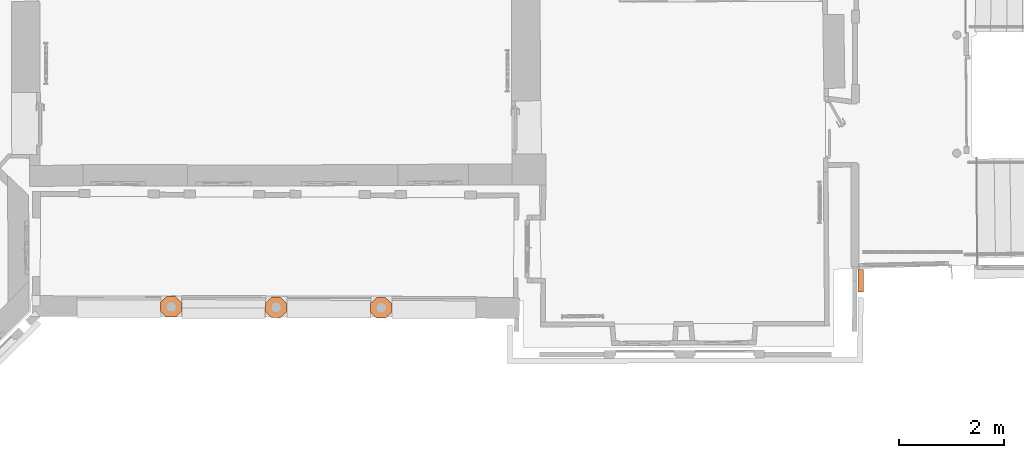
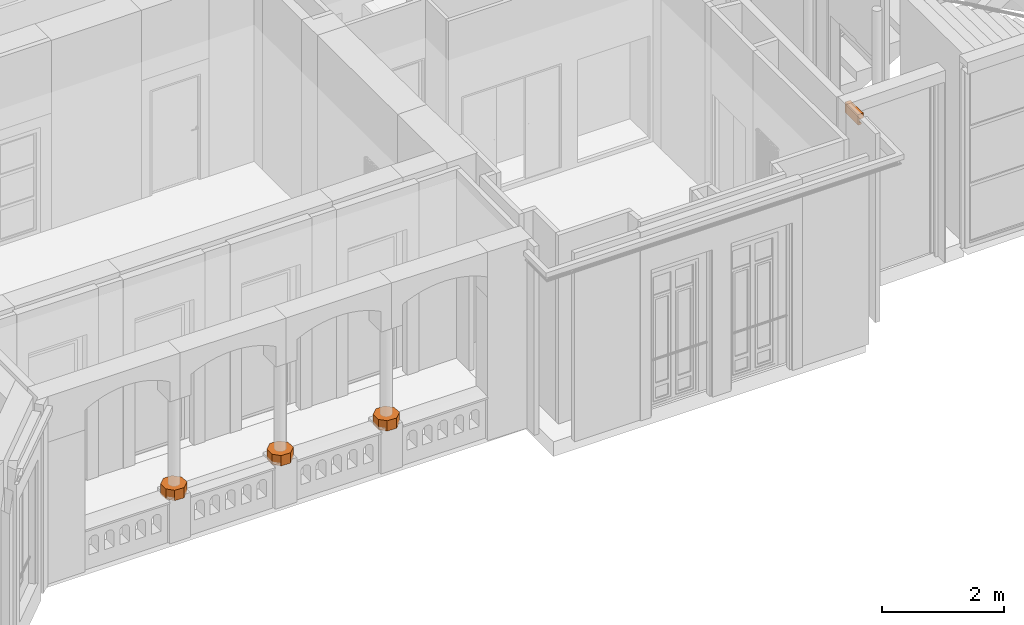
# One storey, part 61 of 66: 4 proxies.
"""IFC2X3 building model written with IfcOpenShell, lengths in centimetres."""

import ifcopenshell
import ifcopenshell.guid

model = None  # the IFC model being written
_history = None  # IfcOwnerHistory: only IFC2X3 demands one
_inside = {}  # id of a spatial element -> (the spatial element, [elements in it])
_under = {}  # id of a project, library or spatial element -> (it, [spatial elements below it])
_declared = {}  # id of a project -> (the project, [libraries it declares])
_typed = {}  # id of a type object -> (the type object, [elements of that type])
_made_of = {}  # id of a material, layer set ... -> (it, [elements and type objects made of it])


def new_model(schema):
    """Start an empty IFC model of exactly this schema.

    Asked for "IFC4X3", IfcOpenShell would pick the latest addendum, in which some entities
    have other attributes; the version numbers below select the first issue.
    IFC2X3 requires an IfcOwnerHistory on every rooted entity: one is made here for all.
    """
    global model, _history
    if schema == "IFC4X3":
        model = ifcopenshell.file(schema_version=(4, 3, 0, 0))
    else:
        model = ifcopenshell.file(schema=schema)
    _inside.clear()
    _under.clear()
    _declared.clear()
    _typed.clear()
    _made_of.clear()
    _history = None
    if model.schema == "IFC2X3":
        org = make("IfcOrganization", Name="unknown")
        user = make(
            "IfcPersonAndOrganization",
            ThePerson=make("IfcPerson", FamilyName="unknown"),
            TheOrganization=org,
        )
        app = make(
            "IfcApplication",
            ApplicationDeveloper=org,
            Version="unknown",
            ApplicationFullName="unknown",
            ApplicationIdentifier="unknown",
        )
        _history = make(
            "IfcOwnerHistory",
            OwningUser=user,
            OwningApplication=app,
            ChangeAction="ADDED",
            CreationDate=0,
        )
    return model


def make(cls, **values):
    """One entity of the class cls with the attributes given. An attribute that is None is left unset."""
    return model.create_entity(
        cls, **{name: value for name, value in values.items() if value is not None}
    )


def entity(cls, *values):
    """Any entity or typed value of the class cls, its attributes in the order of the schema. None: left unset."""
    e = model.create_entity(cls)
    for i, value in enumerate(values):
        if value is not None:
            e[i] = value
    return e


def rooted(cls, **values):
    """An entity with a GlobalId (a new one), such as an element, a storey or a relation."""
    return make(cls, GlobalId=ifcopenshell.guid.new(), OwnerHistory=_history, **values)


def si_unit(unit_type, name, prefix=None):
    """IfcSIUnit, for example si_unit("LENGTHUNIT", "METRE", prefix="MILLI")."""
    return make("IfcSIUnit", UnitType=unit_type, Prefix=prefix, Name=name)


def converted_unit(unit_type, name, factor, base, dimensions=None, offset=None):
    """IfcConversionBasedUnit, such as the inch: factor (a typed value) times the base unit."""
    return make(
        "IfcConversionBasedUnit"
        if offset is None
        else "IfcConversionBasedUnitWithOffset",
        ConversionOffset=offset,
        Dimensions=None
        if dimensions is None
        else entity("IfcDimensionalExponents", *dimensions),
        UnitType=unit_type,
        Name=name,
        ConversionFactor=make(
            "IfcMeasureWithUnit", ValueComponent=factor, UnitComponent=base
        ),
    )


def assignment(units):
    """IfcUnitAssignment: the units of a project."""
    return None if units is None else make("IfcUnitAssignment", Units=units)


def point(xyz):
    """IfcCartesianPoint."""
    return None if xyz is None else make("IfcCartesianPoint", Coordinates=xyz)


def direction(xyz):
    """IfcDirection."""
    return None if xyz is None else make("IfcDirection", DirectionRatios=xyz)


def frame(location, z_axis=None, x_axis=None):
    """IfcAxis2Placement3D, a coordinate frame: its origin and axes. An axis left out is left unset."""
    return make(
        "IfcAxis2Placement3D",
        Location=point(location),
        Axis=direction(z_axis),
        RefDirection=direction(x_axis),
    )


def frame_2d(location, x_axis=None):
    """IfcAxis2Placement2D, a coordinate frame in the plane: its origin and x axis."""
    return make(
        "IfcAxis2Placement2D", Location=point(location), RefDirection=direction(x_axis)
    )


def origin():
    """The frame at (0, 0, 0) with its axes left unset."""
    return frame((0.0, 0.0, 0.0))


def origin_with_axes():
    """The frame at (0, 0, 0) with the z axis (0, 0, 1) and the x axis (1, 0, 0) written out."""
    return frame((0.0, 0.0, 0.0), z_axis=(0.0, 0.0, 1.0), x_axis=(1.0, 0.0, 0.0))


def place(relative_to, where):
    """IfcLocalPlacement: puts the frame where relative to a parent placement (None: the world)."""
    return make(
        "IfcLocalPlacement", PlacementRelTo=relative_to, RelativePlacement=where
    )


def context(
    kind, dimensions, precision=None, world=None, true_north=None, identifier=None
):
    """IfcGeometricRepresentationContext, for example the 3D "Model" context."""
    return make(
        "IfcGeometricRepresentationContext",
        ContextIdentifier=identifier,
        ContextType=kind,
        CoordinateSpaceDimension=dimensions,
        Precision=precision,
        WorldCoordinateSystem=world,
        TrueNorth=true_north,
    )


def subcontext(parent, identifier, kind, view, scale=None):
    """IfcGeometricRepresentationSubContext, for example "Body" below "Model"."""
    return make(
        "IfcGeometricRepresentationSubContext",
        ContextIdentifier=identifier,
        ContextType=kind,
        ParentContext=parent,
        TargetScale=scale,
        TargetView=view,
    )


def project(units=None, contexts=None):
    """IfcProject with its units and contexts."""
    return rooted(
        "IfcProject",
        Name="project",
        RepresentationContexts=contexts,
        UnitsInContext=assignment(units),
    )


def spatial(cls, under=None, at=None, **own):
    """A site, building, storey or space (cls), placed at a placement, below another one or the project."""
    s = rooted(cls, ObjectPlacement=at, **own)
    if under is not None:
        _under.setdefault(under.id(), (under, []))[1].append(s)
    return s


def polyline(points):
    """IfcPolyline through the points."""
    return make("IfcPolyline", Points=[point(p) for p in points])


def circle_curve(where, radius):
    """IfcCircle in the frame where."""
    return make("IfcCircle", Position=where, Radius=radius)


def trimmed(basis, trim1, trim2, sense, master):
    """IfcTrimmedCurve: the piece of a basis curve between two trims."""
    return make(
        "IfcTrimmedCurve",
        BasisCurve=basis,
        Trim1=trim1,
        Trim2=trim2,
        SenseAgreement=sense,
        MasterRepresentation=master,
    )


def segment(curve, same_sense, transition):
    """IfcCompositeCurveSegment."""
    return make(
        "IfcCompositeCurveSegment",
        Transition=transition,
        SameSense=same_sense,
        ParentCurve=curve,
    )


def composite_curve(segments, self_intersect=None):
    """IfcCompositeCurve: segments joined end to end."""
    return make("IfcCompositeCurve", Segments=segments, SelfIntersect=self_intersect)


def outline(outer, holes=None, kind="AREA"):
    """IfcArbitraryClosedProfileDef: a profile drawn as a closed curve; with holes, ...WithVoids."""
    if holes is None:
        return make("IfcArbitraryClosedProfileDef", ProfileType=kind, OuterCurve=outer)
    return make(
        "IfcArbitraryProfileDefWithVoids",
        ProfileType=kind,
        OuterCurve=outer,
        InnerCurves=holes,
    )


def extrude(swept, where, along, depth):
    """IfcExtrudedAreaSolid: the profile swept, set in the frame where, extruded along a direction by depth."""
    return make(
        "IfcExtrudedAreaSolid",
        SweptArea=swept,
        Position=where,
        ExtrudedDirection=direction(along),
        Depth=depth,
    )


def faces_of(points, faces, orient=None, outer=None):
    """IfcFace entities. A face is a list of loops; a loop is a list of indices into points, from 0.

    orient and outer hold one flag for each loop. By default every Orientation is true, the
    first loop of a face is its IfcFaceOuterBound and the others are IfcFaceBound.
    """
    made = []
    for i, loops in enumerate(faces):
        bounds = []
        for j, loop in enumerate(loops):
            is_outer = j == 0 if outer is None else outer[i][j]
            bounds.append(
                make(
                    "IfcFaceOuterBound" if is_outer else "IfcFaceBound",
                    Bound=make("IfcPolyLoop", Polygon=[points[k] for k in loop]),
                    Orientation=True if orient is None else orient[i][j],
                )
            )
        made.append(make("IfcFace", Bounds=bounds))
    return made


def faceted_brep(points, faces, orient=None, outer=None, voids=None):
    """IfcFacetedBrep: a solid bounded by flat faces; with voids (closed shells), ...WithVoids."""
    shared = [point(p) for p in points]
    hull = make("IfcClosedShell", CfsFaces=faces_of(shared, faces, orient, outer))
    if voids is None:
        return make("IfcFacetedBrep", Outer=hull)
    return make(
        "IfcFacetedBrepWithVoids",
        Outer=hull,
        Voids=[
            make(cls, CfsFaces=faces_of(shared, fs, o, b)) for cls, fs, o, b in voids
        ],
    )


def shape(context_of_items, identifier, shape_type, items):
    """IfcShapeRepresentation: the items that make up one representation, for example the "Body"."""
    return make(
        "IfcShapeRepresentation",
        ContextOfItems=context_of_items,
        RepresentationIdentifier=identifier,
        RepresentationType=shape_type,
        Items=items,
    )


def source(mapping_origin, context_of_items, identifier, shape_type, items):
    """IfcRepresentationMap: a shape defined once, which mapped items show again and again."""
    return make(
        "IfcRepresentationMap",
        MappingOrigin=mapping_origin,
        MappedRepresentation=shape(context_of_items, identifier, shape_type, items),
    )


def transform(
    local_origin,
    x_axis=None,
    y_axis=None,
    z_axis=None,
    scale=None,
    scale2=None,
    scale3=None,
    uniform=True,
):
    """IfcCartesianTransformationOperator3D, or its non-uniform kind. x_axis, y_axis, z_axis: its Axis1, 2, 3."""
    if uniform:
        return make(
            "IfcCartesianTransformationOperator3D",
            Axis1=direction(x_axis),
            Axis2=direction(y_axis),
            LocalOrigin=point(local_origin),
            Scale=scale,
            Axis3=direction(z_axis),
        )
    return make(
        "IfcCartesianTransformationOperator3DnonUniform",
        Axis1=direction(x_axis),
        Axis2=direction(y_axis),
        LocalOrigin=point(local_origin),
        Scale=scale,
        Axis3=direction(z_axis),
        Scale2=scale2,
        Scale3=scale3,
    )


def mapped(mapping_source, mapping_target):
    """IfcMappedItem: shows the shape of a source again, moved by a transform."""
    return make(
        "IfcMappedItem", MappingSource=mapping_source, MappingTarget=mapping_target
    )


def material(Name=None, Category=None):
    """IfcMaterial."""
    return make("IfcMaterial", Name=Name, Category=Category)


def made_of(thing, what):
    """Note that an element or type object is made of a material, layer set ...; save() writes the relation."""
    if what is not None:
        _made_of.setdefault(what.id(), (what, []))[1].append(thing)
    return thing


def type_object(cls, material=None, **own):
    """A type object (cls), such as IfcWallType, which elements share."""
    return made_of(rooted(cls, **own), material)


def element(
    cls,
    number,
    at=None,
    inside=None,
    cuts=None,
    type_object=None,
    material=None,
    context=None,
    identifier="Body",
    shape_type=None,
    held_by="IfcProductDefinitionShape",
    body=None,
    shapes=None,
    **own,
):
    """One element of the class cls, such as IfcWall. Its Tag is "e" and its number.

    at: its placement. inside: the storey or other place that contains it. cuts: it is an
    opening in that element (IfcRelVoidsElement). A single representation is given by context,
    identifier, shape_type and body (its items); several are given by shapes. held_by: the class
    of the entity that holds the representations. save() writes the other relations.
    """
    e = rooted(cls, Tag="e%d" % number, ObjectPlacement=at, **own)
    if body is not None:
        shapes = [shape(context, identifier, shape_type, body)]
    if shapes is not None:
        e.Representation = make(held_by, Representations=shapes)
    if inside is not None:
        _inside.setdefault(inside.id(), (inside, []))[1].append(e)
    if cuts is not None:
        rooted(
            "IfcRelVoidsElement", RelatingBuildingElement=cuts, RelatedOpeningElement=e
        )
    if type_object is not None:
        _typed.setdefault(type_object.id(), (type_object, []))[1].append(e)
    return made_of(e, material)


def aggregate(whole, parts):
    """IfcRelAggregates: a whole, such as a stair, and the parts it consists of."""
    return rooted("IfcRelAggregates", RelatingObject=whole, RelatedObjects=parts)


def save(model, path):
    """Write the relations noted so far, then the file.

    IfcRelAggregates (storeys below a building ...), IfcRelContainedInSpatialStructure (elements
    in a storey), IfcRelDefinesByType, IfcRelAssociatesMaterial and IfcRelDeclares: one each for
    every whole, place, type object, material and project.
    """
    for whole, parts in _under.values():
        aggregate(whole, parts)
    for where, things in _inside.values():
        rooted(
            "IfcRelContainedInSpatialStructure",
            RelatedElements=things,
            RelatingStructure=where,
        )
    for kind, things in _typed.values():
        rooted("IfcRelDefinesByType", RelatedObjects=things, RelatingType=kind)
    for what, things in _made_of.values():
        rooted("IfcRelAssociatesMaterial", RelatedObjects=things, RelatingMaterial=what)
    for by, libraries in _declared.values():
        rooted("IfcRelDeclares", RelatingContext=by, RelatedDefinitions=libraries)
    model.write(path)


model = new_model("IFC2X3")

# Units and contexts
model_context = context("Model", 3, precision=0.0001, world=origin(), true_north=direction((0.225632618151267, 0.974212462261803, 0.0)))
body_context = subcontext(model_context, "Body", "Model", "MODEL_VIEW")
ifc_project = project(units=[si_unit("LENGTHUNIT", "METRE", prefix="CENTI"), si_unit("AREAUNIT", "SQUARE_METRE", prefix="CENTI"), si_unit("VOLUMEUNIT", "CUBIC_METRE", prefix="CENTI"), converted_unit("PLANEANGLEUNIT", "DEGREE", entity("IfcRatioMeasure", 0.0174532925), si_unit("PLANEANGLEUNIT", "RADIAN"), dimensions=[0, 0, 0, 0, 0, 0, 0])], contexts=[model_context])

# Site, building, storey
site_placement = place(None, origin_with_axes())
site = spatial("IfcSite", under=ifc_project, at=site_placement, Name="Default Site", CompositionType="ELEMENT")
building_placement = place(site_placement, origin_with_axes())
building = spatial("IfcBuilding", under=site, at=building_placement, Name="Default Building", CompositionType="ELEMENT")
storey_placement = place(building_placement, frame((0.0, 0.0, 477.795358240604), z_axis=(0.0, 0.0, 1.0), x_axis=(1.0, 0.0, 0.0)))
storey = spatial("IfcBuildingStorey", under=building, at=storey_placement, Name="Niveau 1", CompositionType="ELEMENT", Elevation=477.795358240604)

# Proxies
ifc_material_1 = material(Name="Aluminium mat")
building_element_proxy_type = type_object("IfcBuildingElementProxyType", Name="Corniche niv1", PredefinedType="NOTDEFINED", material=ifc_material_1)
shared_shape = source(origin_with_axes(), body_context, "Body", "SweptSolid", [
    extrude(outline(composite_curve([segment(trimmed(circle_curve(frame_2d((0.268889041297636, 10.5360105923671), x_axis=(1.0, 0.0)), 2.2994959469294), [point((1.31060948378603, 8.48601056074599))], [point((1.31060948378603, 12.5860106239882))], True, "CARTESIAN"), True, "CONTINUOUS"), segment(polyline([(1.31060948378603, 12.5860106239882), (-4.15787333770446, 12.5860106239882), (-4.15787333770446, -8.8139892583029), (5.82834186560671, -8.8139892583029), (5.82834186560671, 1.18601056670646), (-1.15787333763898, 1.18601056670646), (-1.15787333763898, 8.48601056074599), (1.31060948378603, 8.48601056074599)]), True, "CONTINUOUS")], self_intersect=False)), origin_with_axes(), (0.0, 0.0, 1.0), 100.0),
])
proxy_1_placement = place(storey_placement, frame((896.166795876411, -881.568512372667, 365.00000423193), z_axis=(0.0, 1.0, 0.0), x_axis=(1.0, 0.0, 1.01064309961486e-15)))
element("IfcBuildingElementProxy", 1, at=proxy_1_placement, inside=storey, type_object=building_element_proxy_type, material=ifc_material_1, Name="Extrusion (solide) 956351", context=body_context, shape_type="MappedRepresentation", body=[
    mapped(shared_shape, transform((4.15787333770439, 8.81398925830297, 0.0), x_axis=(1.0, 0.0, 0.0), y_axis=(0.0, 1.0, 0.0), z_axis=(0.0, 0.0, -1.0), scale=1.0, scale2=1.0, scale3=0.421114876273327, uniform=False)),
])
ifc_material_2 = material(Name="Blanc")
proxy_2_placement = place(storey_placement, frame((-430.748977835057, -960.40561465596, 85.0), z_axis=(0.0, 0.0, 1.0), x_axis=(1.0, 0.0, 0.0)))
element("IfcBuildingElementProxy", 2, at=proxy_2_placement, inside=storey, material=ifc_material_2, Name="Encombrement 449722", context=body_context, shape_type="Brep", body=[
    faceted_brep([(-9.36281940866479e-06, -2.11777804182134e-05, 20.6159061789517), (10.5348016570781, -10.7531759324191, 20.6159061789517), (27.9313470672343, -11.5673276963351, 20.6159061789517), (40.2485038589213, 0.318696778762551, 20.6159061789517), (39.448752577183, 16.6994836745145, 20.6159061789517), (28.0520345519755, 28.0320909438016, 20.6159061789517), (11.9994546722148, 28.3108499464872, 20.6159061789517), (-0.0545595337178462, 16.9848230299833, 20.6159061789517), (-9.36281940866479e-06, -2.11777804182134e-05, -5.30481294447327e-06), (10.5347553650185, -10.7532212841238, -5.30481294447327e-06), (10.5347553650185, -10.7532212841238, 20.6159061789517), (10.5348016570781, -10.7531759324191, -5.30481294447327e-06), (27.9313476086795, -11.5673161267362, -5.30481294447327e-06), (27.9313476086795, -11.5673161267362, 20.6159061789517), (27.9313470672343, -11.5673276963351, -5.30481294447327e-06), (40.2484821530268, 0.318719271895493, -5.30481294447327e-06), (40.2484821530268, 0.318719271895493, 20.6159061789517), (40.2485038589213, 0.318696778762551, -5.30481294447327e-06), (39.4487481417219, 16.6994834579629, -5.30481294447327e-06), (39.4487481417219, 16.6994834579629, 20.6159061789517), (39.448752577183, 16.6994836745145, -5.30481294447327e-06), (28.0520609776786, 28.0321175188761, -5.30481294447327e-06), (28.0520609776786, 28.0321175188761, 20.6159061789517), (28.0520345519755, 28.0320909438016, -5.30481294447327e-06), (11.9994541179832, 28.3108180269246, -5.30481294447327e-06), (11.9994541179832, 28.3108180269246, 20.6159061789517), (11.9994546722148, 28.3108499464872, -5.30481294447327e-06), (-0.0545828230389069, 16.9848478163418, -5.30481294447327e-06), (-0.0545828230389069, 16.9848478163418, 20.6159061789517), (-0.0545595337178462, 16.9848230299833, -5.30481294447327e-06), (-8.85849246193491e-06, -2.11761606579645e-05, -5.30481294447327e-06), (-8.85849246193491e-06, -2.11761606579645e-05, 20.6159061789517)], [[[0, 1, 2, 3, 4, 5, 6, 7]], [[8, 9, 10, 0]], [[11, 12, 13, 1]], [[14, 15, 16, 2]], [[17, 18, 19, 3]], [[20, 21, 22, 4]], [[23, 24, 25, 5]], [[26, 27, 28, 6]], [[29, 30, 31, 7]], [[29, 26, 23, 20, 17, 14, 11, 8]]]),
])
proxy_3_placement = place(storey_placement, frame((-230.883074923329, -961.629254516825, 85.0), z_axis=(0.0, 0.0, 1.0), x_axis=(1.0, 0.0, 0.0)))
element("IfcBuildingElementProxy", 3, at=proxy_3_placement, inside=storey, material=ifc_material_2, Name="Encombrement 449721", context=body_context, shape_type="Brep", body=[
    faceted_brep([(1.1165664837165e-06, -4.08322957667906e-05, 20.6159061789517), (10.534788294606, -10.7531955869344, 20.6159061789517), (27.9313575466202, -11.5673473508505, 20.6159061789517), (40.2485024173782, 0.318677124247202, 20.6159061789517), (39.44875113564, 16.6994640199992, 20.6159061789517), (28.0520450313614, 28.0320712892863, 20.6159061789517), (11.9994413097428, 28.3108302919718, 20.6159061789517), (-0.0545490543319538, 16.9848987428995, 20.6159061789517), (1.1165664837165e-06, -4.08322957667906e-05, -5.30481294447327e-06), (10.5347541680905, -10.7532290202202, -5.30481294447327e-06), (10.5347541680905, -10.7532290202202, 20.6159061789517), (10.534788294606, -10.7531955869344, -5.30481294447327e-06), (27.9313580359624, -11.5673368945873, -5.30481294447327e-06), (27.9313580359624, -11.5673368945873, 20.6159061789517), (27.9313575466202, -11.5673473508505, -5.30481294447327e-06), (40.2484864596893, 0.318693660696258, -5.30481294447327e-06), (40.2484864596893, 0.318693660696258, 20.6159061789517), (40.2485024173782, 0.318677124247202, -5.30481294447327e-06), (39.4487467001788, 16.6994638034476, -5.30481294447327e-06), (39.4487467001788, 16.6994638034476, 20.6159061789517), (39.44875113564, 16.6994640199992, -5.30481294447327e-06), (28.0520655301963, 28.0320919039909, -5.30481294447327e-06), (28.0520655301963, 28.0320919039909, 20.6159061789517), (28.0520450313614, 28.0320712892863, -5.30481294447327e-06), (11.999440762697, 28.3107987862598, -5.30481294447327e-06), (11.999440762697, 28.3107987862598, 20.6159061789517), (11.9994413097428, 28.3108302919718, -5.30481294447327e-06), (-0.0545359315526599, 16.9848847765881, -5.30481294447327e-06), (-0.0545359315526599, 16.9848847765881, 20.6159061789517), (-0.0545490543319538, 16.9848987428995, -5.30481294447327e-06), (1.92718438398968e-06, -4.08296922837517e-05, -5.30481294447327e-06), (1.92718438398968e-06, -4.08296922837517e-05, 20.6159061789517)], [[[0, 1, 2, 3, 4, 5, 6, 7]], [[8, 9, 10, 0]], [[11, 12, 13, 1]], [[14, 15, 16, 2]], [[17, 18, 19, 3]], [[20, 21, 22, 4]], [[23, 24, 25, 5]], [[26, 27, 28, 6]], [[29, 30, 31, 7]], [[29, 26, 23, 20, 17, 14, 11, 8]]]),
])
proxy_4_placement = place(storey_placement, frame((-31.1200519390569, -962.410640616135, 85.0), z_axis=(0.0, 0.0, 1.0), x_axis=(1.0, 0.0, 0.0)))
element("IfcBuildingElementProxy", 4, at=proxy_4_placement, inside=storey, material=ifc_material_2, Name="Encombrement 449719", context=body_context, shape_type="Brep", body=[
    faceted_brep([(-9.94636017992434e-07, -1.00418162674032e-07, 20.6159061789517), (10.5347802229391, -10.7532502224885, 20.6159061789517), (27.9313643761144, -11.5674019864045, 20.6159061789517), (40.2485010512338, 0.318717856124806, 20.6159061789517), (39.4487460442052, 16.6994093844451, 20.6159061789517), (28.0520421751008, 28.0321120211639, 20.6159061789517), (11.9994391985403, 28.3108710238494, 20.6159061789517), (-0.0545511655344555, 16.9848441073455, 20.6159061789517), (-9.94636017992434e-07, -1.00418162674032e-07, -5.30481294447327e-06), (10.5347968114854, -10.7532339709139, -5.30481294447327e-06), (10.5347968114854, -10.7532339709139, 20.6159061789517), (10.5347802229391, -10.7532502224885, -5.30481294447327e-06), (27.9313648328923, -11.5673922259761, -5.30481294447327e-06), (27.9313648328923, -11.5673922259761, 20.6159061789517), (27.9313643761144, -11.5674019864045, -5.30481294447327e-06), (40.2485366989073, 0.318680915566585, -5.30481294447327e-06), (40.2485366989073, 0.318680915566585, 20.6159061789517), (40.2485010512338, 0.318717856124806, -5.30481294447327e-06), (39.4487499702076, 16.6994095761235, -5.30481294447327e-06), (39.4487499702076, 16.6994095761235, 20.6159061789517), (39.4487460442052, 16.6994093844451, -5.30481294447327e-06), (28.0520138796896, 28.0320835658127, -5.30481294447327e-06), (28.0520138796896, 28.0320835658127, 20.6159061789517), (28.0520421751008, 28.0321120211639, -5.30481294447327e-06), (11.99943865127, 28.3108395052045, -5.30481294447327e-06), (11.99943865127, 28.3108395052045, 20.6159061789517), (11.9994391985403, 28.3108710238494, -5.30481294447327e-06), (-0.0545856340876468, 16.9848807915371, -5.30481294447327e-06), (-0.0545856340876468, 16.9848807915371, 20.6159061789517), (-0.0545511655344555, 16.9848441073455, -5.30481294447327e-06), (-4.90309071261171e-07, -9.8798402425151e-08, -5.30481294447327e-06), (-4.90309071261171e-07, -9.8798402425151e-08, 20.6159061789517)], [[[0, 1, 2, 3, 4, 5, 6, 7]], [[8, 9, 10, 0]], [[11, 12, 13, 1]], [[14, 15, 16, 2]], [[17, 18, 19, 3]], [[20, 21, 22, 4]], [[23, 24, 25, 5]], [[26, 27, 28, 6]], [[29, 30, 31, 7]], [[29, 26, 23, 20, 17, 14, 11, 8]]]),
])

save(model, "model.ifc")
